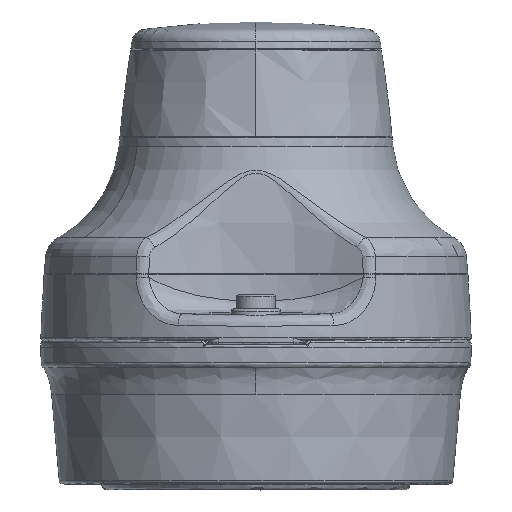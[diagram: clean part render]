
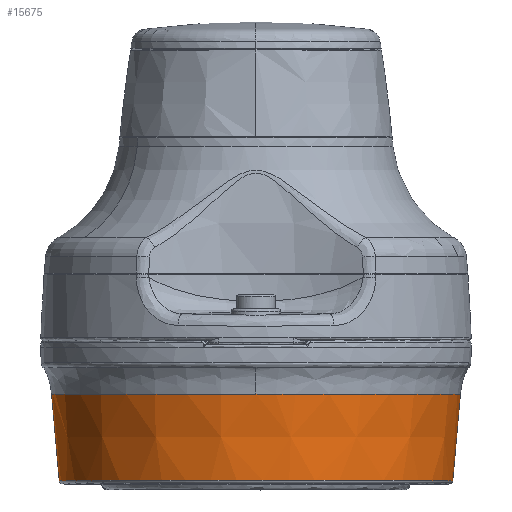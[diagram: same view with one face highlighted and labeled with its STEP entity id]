
A CAD part, top view. The second image highlights one B-rep face of the part: STEP entity #15675.
In plain terms, the highlighted conical face has half-angle 5 degrees and reference radius 42.685 mm.
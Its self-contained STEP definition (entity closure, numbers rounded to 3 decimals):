
#183=VERTEX_POINT('',#182) ;
#202=VERTEX_POINT('',#201) ;
#1274=VERTEX_POINT('',#1273) ;
#1289=VERTEX_POINT('',#1288) ;
#1330=VERTEX_POINT('',#1329) ;
#15636=DIRECTION('Axis2P3D Direction',(0.,1.,0.)) ;
#15637=DIRECTION('Axis2P3D XDirection',(-1.,0.,0.)) ;
#182=CARTESIAN_POINT('Vertex',(-41.111,-83.315,0.)) ;
#201=CARTESIAN_POINT('Vertex',(41.111,-83.315,0.)) ;
#1273=CARTESIAN_POINT('Vertex',(0.,-65.314,42.685)) ;
#1277=CARTESIAN_POINT('Control Point',(42.685,-65.314,0.)) ;
#1278=CARTESIAN_POINT('Control Point',(42.685,-65.314,2.794)) ;
#1279=CARTESIAN_POINT('Control Point',(42.135,-65.314,8.381)) ;
#1280=CARTESIAN_POINT('Control Point',(39.69,-65.314,16.44)) ;
#1281=CARTESIAN_POINT('Control Point',(35.72,-65.314,23.868)) ;
#1282=CARTESIAN_POINT('Control Point',(30.378,-65.314,30.378)) ;
#1283=CARTESIAN_POINT('Control Point',(23.868,-65.314,35.72)) ;
#1284=CARTESIAN_POINT('Control Point',(16.44,-65.314,39.69)) ;
#1285=CARTESIAN_POINT('Control Point',(8.381,-65.314,42.135)) ;
#1286=CARTESIAN_POINT('Control Point',(2.794,-65.314,42.685)) ;
#1287=CARTESIAN_POINT('Control Point',(0.,-65.314,42.685)) ;
#1288=CARTESIAN_POINT('Vertex',(42.685,-65.314,0.)) ;
#1327=CARTESIAN_POINT('Control Point',(-41.111,-83.315,0.)) ;
#1328=CARTESIAN_POINT('Control Point',(-42.685,-65.314,0.)) ;
#1329=CARTESIAN_POINT('Vertex',(-42.685,-65.314,0.)) ;
#1344=CARTESIAN_POINT('Control Point',(41.111,-83.315,0.)) ;
#1345=CARTESIAN_POINT('Control Point',(42.685,-65.314,0.)) ;
#15635=CARTESIAN_POINT('Axis2P3D Location',(0.,-65.314,0.)) ;
#15641=CARTESIAN_POINT('Control Point',(-41.111,-83.315,0.)) ;
#15642=CARTESIAN_POINT('Control Point',(-41.111,-83.315,6.458)) ;
#15643=CARTESIAN_POINT('Control Point',(-39.843,-83.315,12.915)) ;
#15644=CARTESIAN_POINT('Control Point',(-37.305,-83.315,19.041)) ;
#15645=CARTESIAN_POINT('Control Point',(-29.966,-83.315,29.966)) ;
#15646=CARTESIAN_POINT('Control Point',(-19.041,-83.315,37.305)) ;
#15647=CARTESIAN_POINT('Control Point',(-12.915,-83.315,39.843)) ;
#15648=CARTESIAN_POINT('Control Point',(0.,-83.315,42.379)) ;
#15649=CARTESIAN_POINT('Control Point',(12.915,-83.315,39.843)) ;
#15650=CARTESIAN_POINT('Control Point',(19.041,-83.315,37.305)) ;
#15651=CARTESIAN_POINT('Control Point',(29.966,-83.315,29.966)) ;
#15652=CARTESIAN_POINT('Control Point',(37.305,-83.315,19.041)) ;
#15653=CARTESIAN_POINT('Control Point',(39.843,-83.315,12.915)) ;
#15654=CARTESIAN_POINT('Control Point',(41.111,-83.315,6.458)) ;
#15655=CARTESIAN_POINT('Control Point',(41.111,-83.315,0.)) ;
#15658=CARTESIAN_POINT('Control Point',(0.,-65.314,42.685)) ;
#15659=CARTESIAN_POINT('Control Point',(-6.705,-65.314,42.685)) ;
#15660=CARTESIAN_POINT('Control Point',(-13.41,-65.314,41.369)) ;
#15661=CARTESIAN_POINT('Control Point',(-19.77,-65.314,38.735)) ;
#15662=CARTESIAN_POINT('Control Point',(-31.114,-65.314,31.114)) ;
#15663=CARTESIAN_POINT('Control Point',(-38.735,-65.314,19.77)) ;
#15664=CARTESIAN_POINT('Control Point',(-41.369,-65.314,13.41)) ;
#15665=CARTESIAN_POINT('Control Point',(-42.685,-65.314,6.705)) ;
#15666=CARTESIAN_POINT('Control Point',(-42.685,-65.314,0.)) ;
#15638=AXIS2_PLACEMENT_3D('Cone Axis2P3D',#15635,#15636,#15637) ;
#15639=CONICAL_SURFACE('Cone',#15638,42.685,0.087) ;
#1290=EDGE_CURVE('',#1289,#1274,#1276,.T.) ;
#1331=EDGE_CURVE('',#183,#1330,#1326,.T.) ;
#1346=EDGE_CURVE('',#202,#1289,#1343,.T.) ;
#15656=EDGE_CURVE('',#183,#202,#15640,.T.) ;
#15667=EDGE_CURVE('',#1274,#1330,#15657,.T.) ;
#15669=ORIENTED_EDGE('',*,*,#1331,.F.) ;
#15670=ORIENTED_EDGE('',*,*,#15656,.T.) ;
#15671=ORIENTED_EDGE('',*,*,#1346,.T.) ;
#15672=ORIENTED_EDGE('',*,*,#1290,.T.) ;
#15673=ORIENTED_EDGE('',*,*,#15667,.T.) ;
#15668=EDGE_LOOP('',(#15669,#15670,#15671,#15672,#15673)) ;
#15675=ADVANCED_FACE('980 917-00_007;1-Mount.1\\Extrude (132)',(#15674),#15639,.T.) ;
#1276=B_SPLINE_CURVE_WITH_KNOTS('',3,(#1277,#1278,#1279,#1280,#1281,#1282,#1283,#1284,#1285,#1286,#1287),.UNSPECIFIED.,.F.,.U.,(4,1,1,1,1,1,1,1,4),(0.,0.125,0.25,0.375,0.5,0.625,0.75,0.875,1.),.UNIFORM_KNOTS.) ;
#1326=B_SPLINE_CURVE_WITH_KNOTS('',1,(#1327,#1328),.UNSPECIFIED.,.F.,.U.,(2,2),(0.,1.),.UNIFORM_KNOTS.) ;
#1343=B_SPLINE_CURVE_WITH_KNOTS('',1,(#1344,#1345),.UNSPECIFIED.,.F.,.U.,(2,2),(0.,1.),.UNIFORM_KNOTS.) ;
#15640=B_SPLINE_CURVE_WITH_KNOTS('',5,(#15641,#15642,#15643,#15644,#15645,#15646,#15647,#15648,#15649,#15650,#15651,#15652,#15653,#15654,#15655),.UNSPECIFIED.,.F.,.U.,(6,3,3,3,6),(0.,0.25,0.5,0.75,1.),.UNIFORM_KNOTS.) ;
#15657=B_SPLINE_CURVE_WITH_KNOTS('',5,(#15658,#15659,#15660,#15661,#15662,#15663,#15664,#15665,#15666),.UNSPECIFIED.,.F.,.U.,(6,3,6),(0.,0.5,1.),.UNIFORM_KNOTS.) ;
#15674=FACE_OUTER_BOUND('',#15668,.T.) ;
